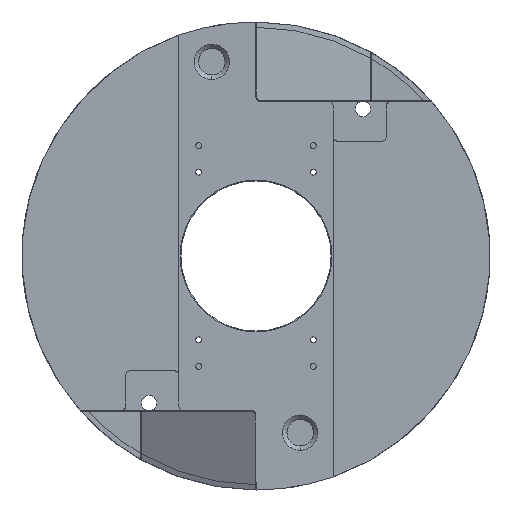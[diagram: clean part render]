
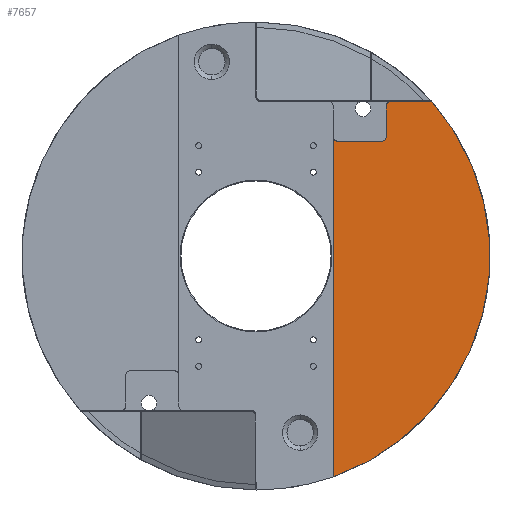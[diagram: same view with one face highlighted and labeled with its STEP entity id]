
A CAD part, front view. The second image highlights one B-rep face of the part: STEP entity #7657.
In plain terms, the highlighted planar face has unit normal (0, -1, 0) as drawn and (0, 0, 1) by its records, which use the part's own axes.
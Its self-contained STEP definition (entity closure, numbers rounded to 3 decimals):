
#118 = DIRECTION ( 'NONE',  ( 0., 0., -1. ) ) ;
#137 = CARTESIAN_POINT ( 'NONE',  ( 0., 0., 20. ) ) ;
#290 = LINE ( 'NONE', #373, #7200 ) ;
#292 = AXIS2_PLACEMENT_3D ( 'NONE', #1939, #118, #4537 ) ;
#373 = CARTESIAN_POINT ( 'NONE',  ( -130., 87.5, 20. ) ) ;
#381 = DIRECTION ( 'NONE',  ( 0., 0., 1. ) ) ;
#469 = AXIS2_PLACEMENT_3D ( 'NONE', #137, #1447, #4737 ) ;
#511 = CARTESIAN_POINT ( 'NONE',  ( -135., 147.5, 20. ) ) ;
#784 = ORIENTED_EDGE ( 'NONE', *, *, #2840, .F. ) ;
#893 = FACE_OUTER_BOUND ( 'NONE', #2149, .T. ) ;
#1084 = DIRECTION ( 'NONE',  ( -1., 0., 0. ) ) ;
#1112 = ORIENTED_EDGE ( 'NONE', *, *, #6583, .F. ) ;
#1155 = AXIS2_PLACEMENT_3D ( 'NONE', #1472, #3562, #1515 ) ;
#1164 = EDGE_CURVE ( 'NONE', #2417, #5317, #1869, .T. ) ;
#1412 = VERTEX_POINT ( 'NONE', #6006 ) ;
#1447 = DIRECTION ( 'NONE',  ( 0., 0., 1. ) ) ;
#1472 = CARTESIAN_POINT ( 'NONE',  ( 0., 0., 20. ) ) ;
#1480 = AXIS2_PLACEMENT_3D ( 'NONE', #5367, #6718, #5936 ) ;
#1515 = DIRECTION ( 'NONE',  ( 1., 0., 0. ) ) ;
#1604 = DIRECTION ( 'NONE',  ( 0., 1., 0. ) ) ;
#1628 = AXIS2_PLACEMENT_3D ( 'NONE', #1774, #381, #3740 ) ;
#1647 = CIRCLE ( 'NONE', #292, 5. ) ;
#1774 = CARTESIAN_POINT ( 'NONE',  ( -170., 152.5, 20. ) ) ;
#1869 = CIRCLE ( 'NONE', #1480, 5. ) ;
#1904 = LINE ( 'NONE', #2460, #4406 ) ;
#1939 = CARTESIAN_POINT ( 'NONE',  ( -135., 92.5, 20. ) ) ;
#2122 = ORIENTED_EDGE ( 'NONE', *, *, #1164, .T. ) ;
#2149 = EDGE_LOOP ( 'NONE', ( #1112, #2508, #6440, #3195, #784, #2122, #5334, #2221 ) ) ;
#2208 = CARTESIAN_POINT ( 'NONE',  ( -130., 147.5, 20. ) ) ;
#2221 = ORIENTED_EDGE ( 'NONE', *, *, #4507, .T. ) ;
#2417 = VERTEX_POINT ( 'NONE', #511 ) ;
#2460 = CARTESIAN_POINT ( 'NONE',  ( -175., 0., 20. ) ) ;
#2508 = ORIENTED_EDGE ( 'NONE', *, *, #7198, .T. ) ;
#2795 = EDGE_CURVE ( 'NONE', #6041, #5317, #290, .T. ) ;
#2840 = EDGE_CURVE ( 'NONE', #2417, #1412, #8035, .T. ) ;
#3044 = LINE ( 'NONE', #5039, #3731 ) ;
#3094 = CARTESIAN_POINT ( 'NONE',  ( 250.137, 87.5, 20. ) ) ;
#3132 = CIRCLE ( 'NONE', #1628, 5. ) ;
#3190 = CARTESIAN_POINT ( 'NONE',  ( -130., 142.5, 20. ) ) ;
#3195 = ORIENTED_EDGE ( 'NONE', *, *, #3374, .T. ) ;
#3374 = EDGE_CURVE ( 'NONE', #5896, #1412, #3132, .T. ) ;
#3562 = DIRECTION ( 'NONE',  ( 0., 0., 1. ) ) ;
#3731 = VECTOR ( 'NONE', #1084, 1000. ) ;
#3740 = DIRECTION ( 'NONE',  ( 1., 0., 0. ) ) ;
#4164 = DIRECTION ( 'NONE',  ( -1., 0., 0. ) ) ;
#4406 = VECTOR ( 'NONE', #5058, 1000. ) ;
#4507 = EDGE_CURVE ( 'NONE', #6041, #5692, #1647, .T. ) ;
#4537 = DIRECTION ( 'NONE',  ( 1., 0., 0. ) ) ;
#4708 = VERTEX_POINT ( 'NONE', #5043 ) ;
#4723 = PLANE ( 'NONE',  #1155 ) ;
#4737 = DIRECTION ( 'NONE',  ( 1., 0., 0. ) ) ;
#4762 = VECTOR ( 'NONE', #4164, 1000. ) ;
#4781 = VERTEX_POINT ( 'NONE', #3094 ) ;
#4958 = CIRCLE ( 'NONE', #469, 265. ) ;
#5039 = CARTESIAN_POINT ( 'NONE',  ( 300., 87.5, 20. ) ) ;
#5043 = CARTESIAN_POINT ( 'NONE',  ( -175., 198.997, 20. ) ) ;
#5058 = DIRECTION ( 'NONE',  ( 0., -1., 0. ) ) ;
#5317 = VERTEX_POINT ( 'NONE', #3190 ) ;
#5334 = ORIENTED_EDGE ( 'NONE', *, *, #2795, .F. ) ;
#5367 = CARTESIAN_POINT ( 'NONE',  ( -135., 142.5, 20. ) ) ;
#5447 = CARTESIAN_POINT ( 'NONE',  ( -135., 87.5, 20. ) ) ;
#5692 = VERTEX_POINT ( 'NONE', #5447 ) ;
#5793 = CARTESIAN_POINT ( 'NONE',  ( -130., 92.5, 20. ) ) ;
#5896 = VERTEX_POINT ( 'NONE', #7314 ) ;
#5936 = DIRECTION ( 'NONE',  ( 1., 0., 0. ) ) ;
#6006 = CARTESIAN_POINT ( 'NONE',  ( -170., 147.5, 20. ) ) ;
#6041 = VERTEX_POINT ( 'NONE', #5793 ) ;
#6084 = EDGE_CURVE ( 'NONE', #4708, #5896, #1904, .T. ) ;
#6440 = ORIENTED_EDGE ( 'NONE', *, *, #6084, .T. ) ;
#6583 = EDGE_CURVE ( 'NONE', #4781, #5692, #3044, .T. ) ;
#6718 = DIRECTION ( 'NONE',  ( 0., 0., -1. ) ) ;
#7198 = EDGE_CURVE ( 'NONE', #4781, #4708, #4958, .T. ) ;
#7200 = VECTOR ( 'NONE', #1604, 1000. ) ;
#7314 = CARTESIAN_POINT ( 'NONE',  ( -175., 152.5, 20. ) ) ;
#7657 = ADVANCED_FACE ( 'NONE', ( #893 ), #4723, .T. ) ;
#8035 = LINE ( 'NONE', #2208, #4762 ) ;
